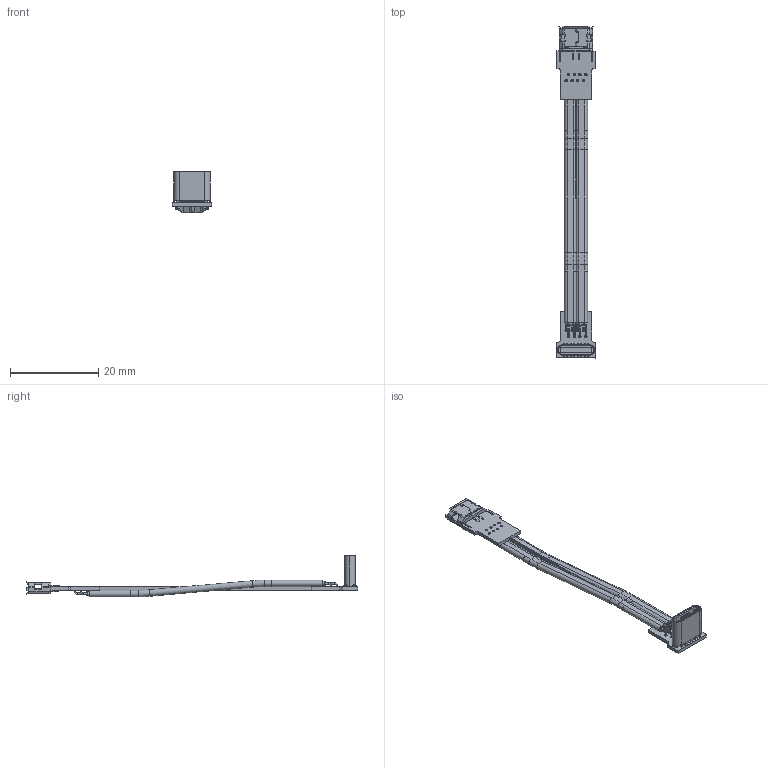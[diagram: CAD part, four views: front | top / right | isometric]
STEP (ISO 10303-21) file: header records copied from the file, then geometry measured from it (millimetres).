
FILE_DESCRIPTION(('Open CASCADE Model'),'2;1');
FILE_NAME('Open CASCADE Shape Model','2022-04-24T15:08:39',('Author'),( 'Open CASCADE'),'Open CASCADE STEP processor 6.8','Open CASCADE 6.8' ,'Unknown');
FILE_SCHEMA(('AUTOMOTIVE_DESIGN { 1 0 10303 214 1 1 1 1 }'));
Length unit declared in the file: millimetre
Products named in the file (77): PCB; Board; Open CASCADE STEP translator 6.8 2.1.1; Open CASCADE STEP translator 6.8 2.1.1.1; Designator22; Micro_usb_vetical_Crimping_20211215; Designator12; T2D-4_20211026; Free-Models; 8_pin_S_20211217
Assembly tree (82 placements, depth 4):
  PCB
    Board
      Open CASCADE STEP translator 6.8 2.1.1
        Open CASCADE STEP translator 6.8 2.1.1.1
    Designator22
      Micro_usb_vetical_Crimping_20211215  x2
      Micro_usb_vetical_Crimping_20211215
      Micro_usb_vetical_Crimping_20211215  x2
      Micro_usb_vetical_Crimping_20211215
      Micro_usb_vetical_Crimping_20211215  x2
      Micro_usb_vetical_Crimping_20211215
      Micro_usb_vetical_Crimping_20211215  x2
      Micro_usb_vetical_Crimping_20211215
      Micro_usb_vetical_Crimping_20211215  x2
      Micro_usb_vetical_Crimping_20211215
      Micro_usb_vetical_Crimping_20211215  x2
      Micro_usb_vetical_Crimping_20211215
    Designator12
      T2D-4_20211026
      T2D-4_20211026
      T2D-4_20211026
      T2D-4_20211026
      T2D-4_20211026
      T2D-4_20211026
      T2D-4_20211026
      T2D-4_20211026
      T2D-4_20211026
      T2D-4_20211026
      T2D-4_20211026
      T2D-4_20211026
      T2D-4_20211026
      T2D-4_20211026
      T2D-4_20211026
      T2D-4_20211026
      T2D-4_20211026
      T2D-4_20211026
      T2D-4_20211026
      T2D-4_20211026
      T2D-4_20211026
      T2D-4_20211026
      T2D-4_20211026
      T2D-4_20211026
      T2D-4_20211026
      T2D-4_20211026
      T2D-4_20211026
      T2D-4_20211026
      T2D-4_20211026
      T2D-4_20211026
      T2D-4_20211026
      T2D-4_20211026
      T2D-4_20211026
      T2D-4_20211026
      T2D-4_20211026
      T2D-4_20211026
      T2D-4_20211026
      T2D-4_20211026
      T2D-4_20211026
      T2D-4_20211026
      T2D-4_20211026
      T2D-4_20211026
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Bounding box: 9.01 x 75.08 x 9.37 mm (x, y, z)
Volume: 585.2 mm3; surface area: 3800.5 mm2
Topology: 105 solids, 105 shells, 1887 faces, 4774 edges, 3086 vertices
Faces by surface type: plane 1162, cylinder 635, torus 58, bspline 24, extrusion 8
Full cylindrical faces by diameter (mm): 0.55 x16
Entity records: 61328 total; most frequent: CARTESIAN_POINT 8792, DIRECTION 8214, ORIENTED_EDGE 7764, EDGE_CURVE 3882, VECTOR 2754, LINE 2746, AXIS2_PLACEMENT_3D 2730, VERTEX_POINT 2518
